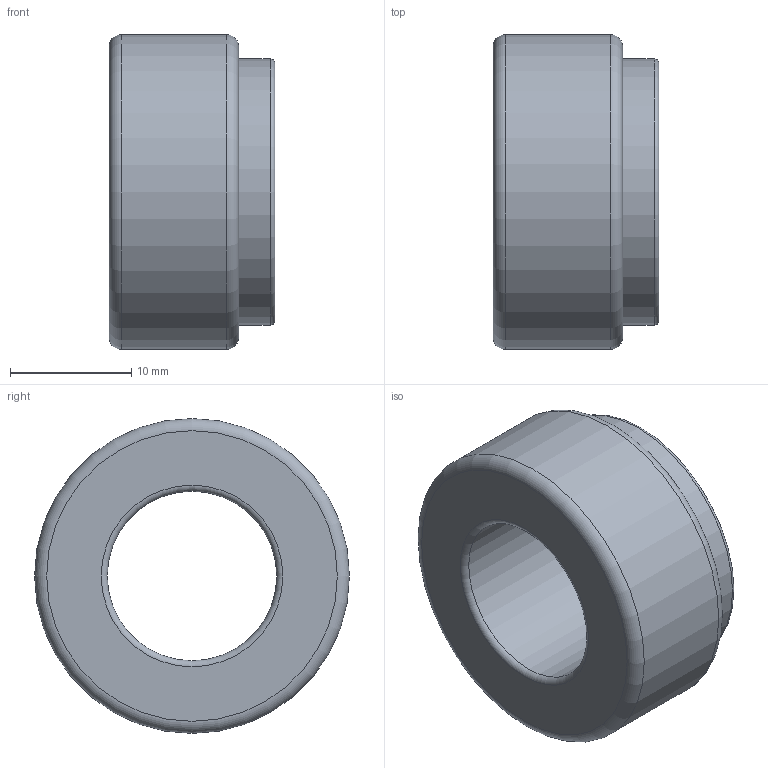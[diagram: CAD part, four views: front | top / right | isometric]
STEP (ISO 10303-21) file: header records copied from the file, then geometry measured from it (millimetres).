
FILE_DESCRIPTION(('Open CASCADE Model'),'2;1');
FILE_NAME('Open CASCADE Shape Model','2026-11-01T16:33:35',('Author'),( 'Open CASCADE'),'Open CASCADE STEP processor 8.0','build123d', 'Unknown');
FILE_SCHEMA(('AUTOMOTIVE_DESIGN { 1 0 10303 214 1 1 1 1 }'));
Length unit declared in the file: millimetre
Products named in the file (1): COMPOUND
Bounding box: 13.7 x 26 x 26 mm (x, y, z)
Volume: 4119.9 mm3; surface area: 2409.9 mm2
Topology: 1 solids, 1 shells, 12 faces, 20 edges, 12 vertices
Faces by surface type: plane 4, torus 4, cylinder 4
Full cylindrical faces by diameter (mm): 14 x1, 20.4 x1, 22 x1, 26 x1
Entity records: 554 total; most frequent: DIRECTION 94, CARTESIAN_POINT 93, ORIENTED_EDGE 40, PCURVE 40, DEFINITIONAL_REPRESENTATION 40, AXIS2_PLACEMENT_3D 29, LINE 28, VECTOR 28
